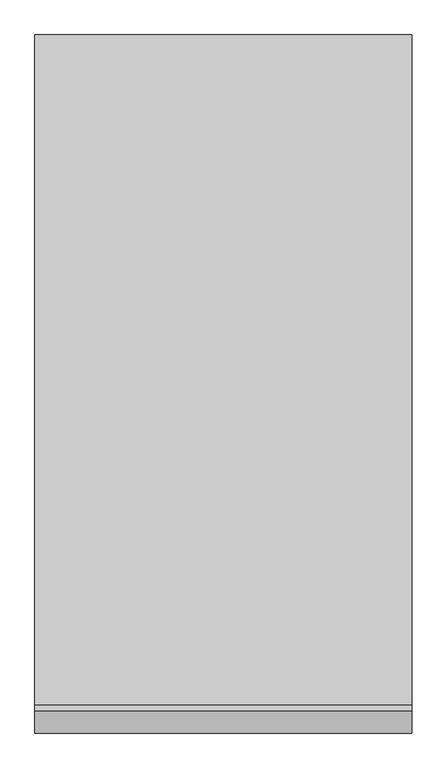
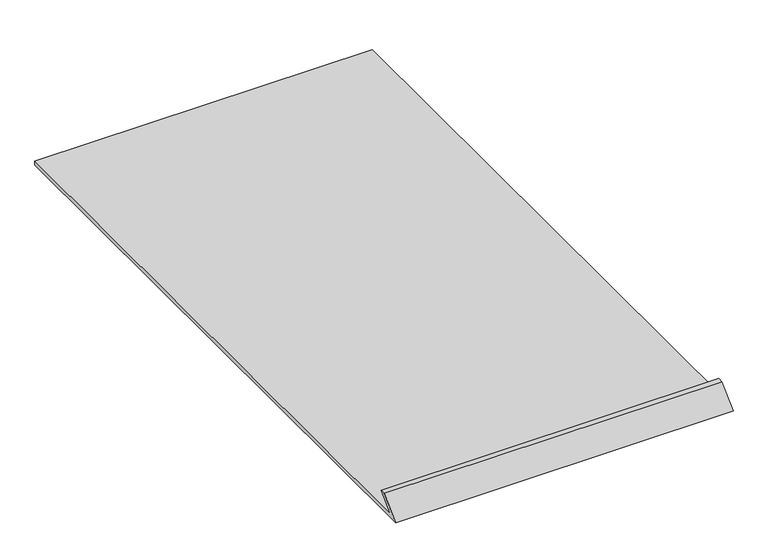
"""IFC4 building model written with IfcOpenShell, lengths in millimetres: proxy geometry, Подставка2 : Подставка."""

from ifc_helpers import new_model, si_unit, frame, origin, place, context, project, spatial, polyline, outline, extrude, source, transform, mapped, element, save


def generic_models_70c5f209(model_context):
    return source(origin(), model_context, "Body", "SweptSolid", [
        extrude(outline(polyline([(-5814.3294249, -100.0), (-5319.3546781, 394.9747468), (-5177.9333219, 394.9747468), (-5572.9080687, 0.0), (10150.0733268, 0.0), (10150.0733268, -100.0), (-5814.3294249, -100.0)])), frame((2592.7762778, 0.0, 0.0), z_axis=(1.0, 0.0, 0.0), x_axis=(0.0, 1.0, 0.0)), (0.0, 0.0, 1.0), 8629.0165128),
    ])


if __name__ == "__main__":
    model = new_model("IFC4")
    model_context = context("Model", 3, world=origin())
    ifc_project = project(units=[si_unit("LENGTHUNIT", "METRE", prefix="MILLI")], contexts=[model_context])
    site = spatial("IfcSite", under=ifc_project)
    building = spatial("IfcBuilding", under=site)
    placement = place(None, origin())
    generic_models_shape = generic_models_70c5f209(model_context)
    element("IfcBuildingElementProxy", 1, Name="Подставка2 : Подставка", ObjectType="Подставка2 : Подставка", at=placement, inside=building, context=model_context, shape_type="MappedRepresentation", body=[
        mapped(generic_models_shape, transform((0.0, 0.0, 0.0), x_axis=(1.0, 0.0, 0.0), y_axis=(0.0, 1.0, 0.0), z_axis=(0.0, 0.0, 1.0))),
    ])
    save(model, "model.ifc")
